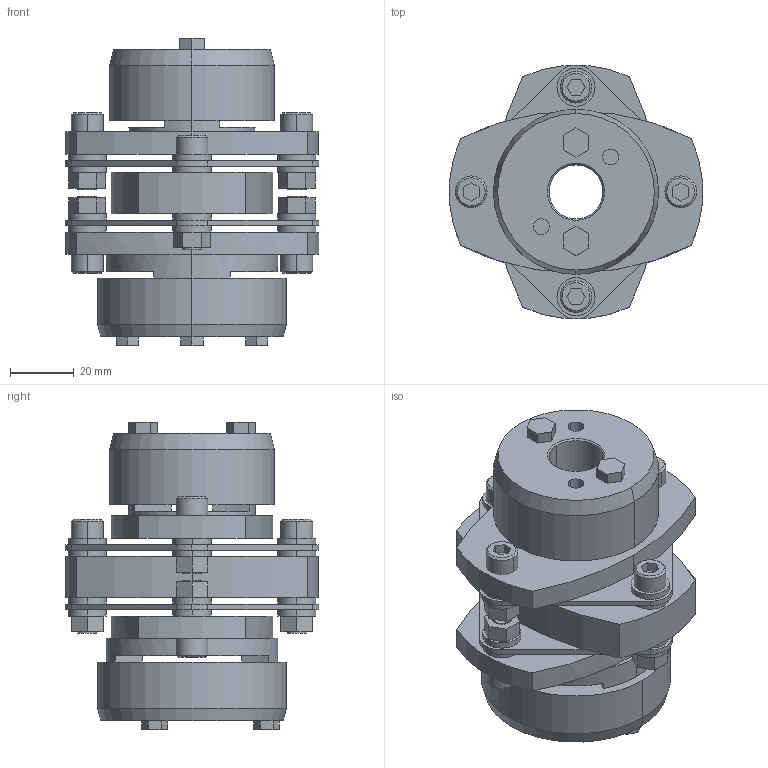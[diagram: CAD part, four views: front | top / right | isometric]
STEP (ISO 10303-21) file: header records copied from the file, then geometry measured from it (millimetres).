
FILE_DESCRIPTION((''),'2;1');
FILE_NAME('LCD-80T7-17×35.stp','2011-09-15T13:25:10',(''),(''),'AutoCAD STEP 2000i','AutoCAD 2000i',', , ');
FILE_SCHEMA(('CONFIG_CONTROL_DESIGN'));
Length unit declared in the file: millimetre
Products named in the file (12): LCD-80T7-17×35; 忣兜1; LC80T7-T035; LC80T7-T032; LC80T7-T030; LC80T7-T028; LC80T7-T024; LC80T7-T022; LC80T7-T019; LC80T7-T017-1; LC80T7-T017; LCD80-ITA
Assembly tree (11 placements, depth 2):
  LCD-80T7-17×35
    忣兜1
    LC80T7-T035
    LC80T7-T032
    LC80T7-T030
    LC80T7-T028
    LC80T7-T024
    LC80T7-T022
    LC80T7-T019
    LC80T7-T017-1
    LC80T7-T017
    LCD80-ITA
Bounding box: 80 x 79.95 x 96.8 mm (x, y, z)
Volume: 175762.2 mm3; surface area: 57329.6 mm2
Topology: 1 solids, 1 shells, 316 faces, 770 edges, 504 vertices
Faces by surface type: plane 172, cylinder 120, cone 24
Entity records: 9619 total; most frequent: DIRECTION 1714, CARTESIAN_POINT 1602, ORIENTED_EDGE 1540, EDGE_CURVE 770, AXIS2_PLACEMENT_3D 616, VERTEX_POINT 504, VECTOR 482, LINE 482
